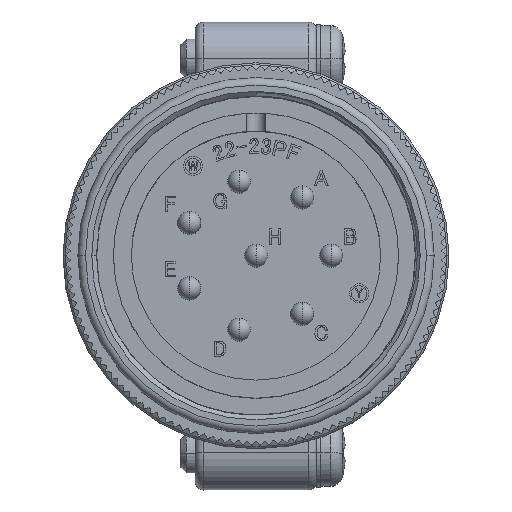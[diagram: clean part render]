
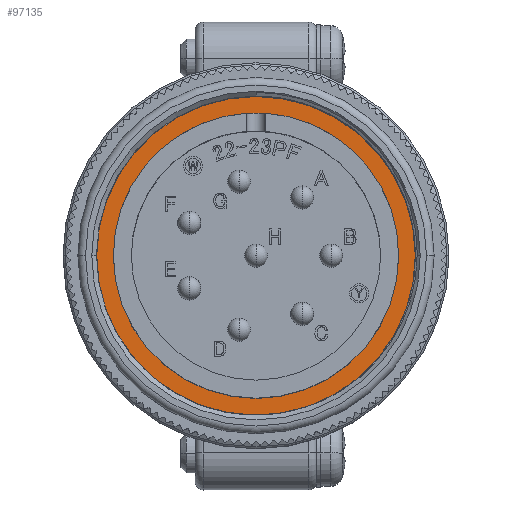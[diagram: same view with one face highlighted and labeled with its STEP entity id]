
A CAD part, top view. The second image highlights one B-rep face of the part: STEP entity #97135.
In plain terms, the highlighted planar face has unit normal (0, 0, 1).
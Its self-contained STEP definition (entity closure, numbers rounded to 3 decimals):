
#1627 = FACE_BOUND ( 'NONE', #10000, .T. ) ;
#3741 = DIRECTION ( 'NONE',  ( 0., 0., -1. ) ) ;
#4180 = DIRECTION ( 'NONE',  ( -1., 0., 0. ) ) ;
#4806 = EDGE_CURVE ( 'NONE', #9276, #66338, #85169, .T. ) ;
#6280 = CIRCLE ( 'NONE', #17080, 16.685 ) ;
#9276 = VERTEX_POINT ( 'NONE', #38516 ) ;
#10000 = EDGE_LOOP ( 'NONE', ( #38663, #85757 ) ) ;
#10029 = DIRECTION ( 'NONE',  ( 0., 0., -1. ) ) ;
#13282 = CARTESIAN_POINT ( 'NONE',  ( -16.685, 0., -18.26 ) ) ;
#17080 = AXIS2_PLACEMENT_3D ( 'NONE', #55974, #3741, #64757 ) ;
#18413 = EDGE_CURVE ( 'NONE', #49947, #92522, #50695, .T. ) ;
#28138 = CARTESIAN_POINT ( 'NONE',  ( 14.945, 0., -18.26 ) ) ;
#29554 = CARTESIAN_POINT ( 'NONE',  ( 0., 0., -18.26 ) ) ;
#38326 = DIRECTION ( 'NONE',  ( -1., 0., 0. ) ) ;
#38516 = CARTESIAN_POINT ( 'NONE',  ( -14.945, 0., -18.26 ) ) ;
#38663 = ORIENTED_EDGE ( 'NONE', *, *, #4806, .T. ) ;
#49947 = VERTEX_POINT ( 'NONE', #13282 ) ;
#50695 = CIRCLE ( 'NONE', #66362, 16.685 ) ;
#53254 = DIRECTION ( 'NONE',  ( -1., 0., 0. ) ) ;
#55414 = AXIS2_PLACEMENT_3D ( 'NONE', #62289, #10029, #71116 ) ;
#55974 = CARTESIAN_POINT ( 'NONE',  ( 0., 0., -18.26 ) ) ;
#56437 = DIRECTION ( 'NONE',  ( 0., 0., -1. ) ) ;
#62289 = CARTESIAN_POINT ( 'NONE',  ( 0., 0., -18.26 ) ) ;
#64757 = DIRECTION ( 'NONE',  ( -1., 0., 0. ) ) ;
#66338 = VERTEX_POINT ( 'NONE', #28138 ) ;
#66362 = AXIS2_PLACEMENT_3D ( 'NONE', #108788, #56437, #4180 ) ;
#70504 = PLANE ( 'NONE',  #78343 ) ;
#71116 = DIRECTION ( 'NONE',  ( -1., 0., 0. ) ) ;
#71225 = ORIENTED_EDGE ( 'NONE', *, *, #18413, .F. ) ;
#78343 = AXIS2_PLACEMENT_3D ( 'NONE', #96877, #105651, #53254 ) ;
#85169 = CIRCLE ( 'NONE', #55414, 14.945 ) ;
#85757 = ORIENTED_EDGE ( 'NONE', *, *, #113303, .T. ) ;
#87604 = AXIS2_PLACEMENT_3D ( 'NONE', #29554, #90681, #38326 ) ;
#89732 = EDGE_LOOP ( 'NONE', ( #71225, #105321 ) ) ;
#90681 = DIRECTION ( 'NONE',  ( 0., 0., -1. ) ) ;
#91822 = FACE_OUTER_BOUND ( 'NONE', #89732, .T. ) ;
#92522 = VERTEX_POINT ( 'NONE', #96203 ) ;
#96203 = CARTESIAN_POINT ( 'NONE',  ( 16.685, 0., -18.26 ) ) ;
#96877 = CARTESIAN_POINT ( 'NONE',  ( 0., 16.685, -18.26 ) ) ;
#97135 = ADVANCED_FACE ( 'NONE', ( #91822, #1627 ), #70504, .F. ) ;
#100528 = EDGE_CURVE ( 'NONE', #92522, #49947, #6280, .T. ) ;
#105321 = ORIENTED_EDGE ( 'NONE', *, *, #100528, .F. ) ;
#105651 = DIRECTION ( 'NONE',  ( 0., 0., -1. ) ) ;
#108788 = CARTESIAN_POINT ( 'NONE',  ( 0., 0., -18.26 ) ) ;
#109221 = CIRCLE ( 'NONE', #87604, 14.945 ) ;
#113303 = EDGE_CURVE ( 'NONE', #66338, #9276, #109221, .T. ) ;
